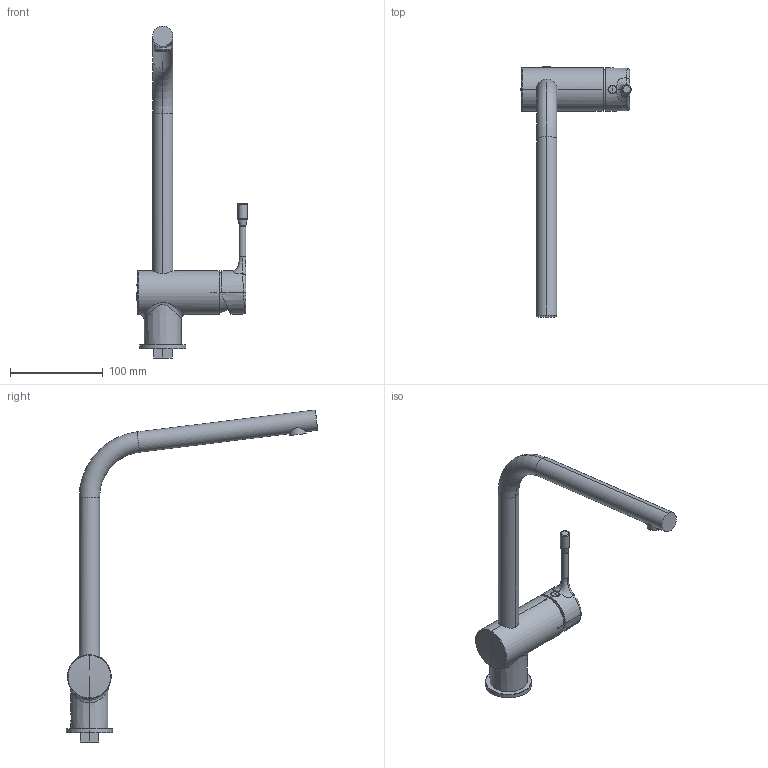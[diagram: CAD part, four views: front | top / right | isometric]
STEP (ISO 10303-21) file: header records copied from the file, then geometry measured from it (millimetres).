
FILE_DESCRIPTION((''),'2;1');
FILE_NAME('BC174AA_3DPL','2020-07-06T',('HristovG'),('AMERICAN STANDARD B&K'),'CREO PARAMETRIC BY PTC INC, 2016130','CREO PARAMETRIC BY PTC INC, 2016130','');
FILE_SCHEMA(('CONFIG_CONTROL_DESIGN'));
Length unit declared in the file: millimetre
Products named in the file (1): BC174AA_3DPL
Bounding box: 118.99 x 271.33 x 358.04 mm (x, y, z)
Volume: 430400.3 mm3; surface area: 62163.5 mm2
Topology: 1 solids, 4 shells, 242 faces, 600 edges, 386 vertices
Faces by surface type: plane 103, bspline 80, cylinder 29, torus 14, cone 8, sphere 4, extrusion 4
Entity records: 19157 total; most frequent: CARTESIAN_POINT 13806, ORIENTED_EDGE 1180, DIRECTION 910, EDGE_CURVE 596, VERTEX_POINT 386, VECTOR 312, LINE 308, AXIS2_PLACEMENT_3D 299
